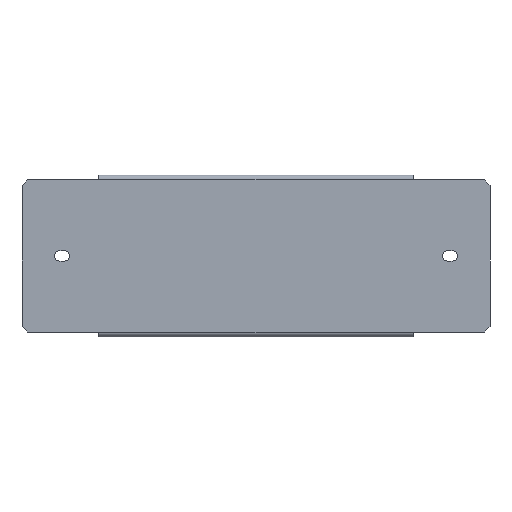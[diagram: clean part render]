
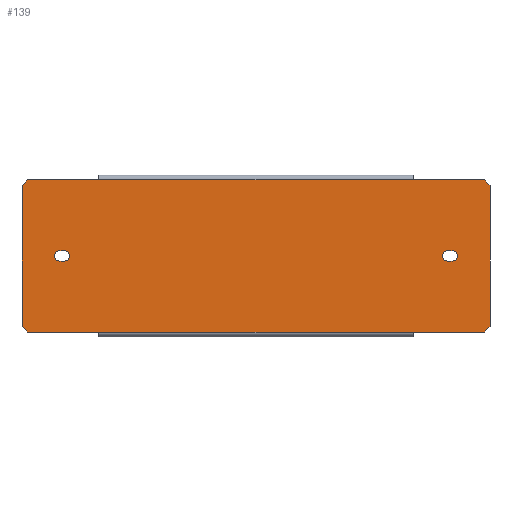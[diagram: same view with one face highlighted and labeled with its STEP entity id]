
A CAD part, top view. The second image highlights one B-rep face of the part: STEP entity #139.
In plain terms, the highlighted planar face has unit normal (0, 0, 1).
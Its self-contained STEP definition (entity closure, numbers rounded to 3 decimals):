
#139=ADVANCED_FACE('',(#503,#505,#507),#509,.T.);
#503=FACE_BOUND('',#504,.T.);
#504=EDGE_LOOP('',(#790,#791,#792,#793,#794,#795,#796,#797,#798,#799,#800,#801));
#505=FACE_BOUND('',#506,.T.);
#506=EDGE_LOOP('',(#802,#803,#804,#805));
#507=FACE_BOUND('',#508,.T.);
#508=EDGE_LOOP('',(#806,#807,#808,#809));
#509=PLANE('',#510);
#510=AXIS2_PLACEMENT_3D('',#511,#512,#513);
#511=CARTESIAN_POINT('',(-151.25,46.6,0.));
#512=DIRECTION('',(0.,-0.,1.));
#513=DIRECTION('',(1.,0.,-0.));
#790=ORIENTED_EDGE('',*,*,#972,.T.);
#791=ORIENTED_EDGE('',*,*,#990,.T.);
#792=ORIENTED_EDGE('',*,*,#958,.T.);
#793=ORIENTED_EDGE('',*,*,#991,.T.);
#794=ORIENTED_EDGE('',*,*,#968,.T.);
#795=ORIENTED_EDGE('',*,*,#992,.T.);
#796=ORIENTED_EDGE('',*,*,#964,.T.);
#797=ORIENTED_EDGE('',*,*,#993,.T.);
#798=ORIENTED_EDGE('',*,*,#954,.T.);
#799=ORIENTED_EDGE('',*,*,#994,.T.);
#800=ORIENTED_EDGE('',*,*,#976,.T.);
#801=ORIENTED_EDGE('',*,*,#995,.T.);
#802=ORIENTED_EDGE('',*,*,#996,.F.);
#803=ORIENTED_EDGE('',*,*,#997,.F.);
#804=ORIENTED_EDGE('',*,*,#998,.F.);
#805=ORIENTED_EDGE('',*,*,#947,.F.);
#806=ORIENTED_EDGE('',*,*,#999,.F.);
#807=ORIENTED_EDGE('',*,*,#1000,.F.);
#808=ORIENTED_EDGE('',*,*,#951,.F.);
#809=ORIENTED_EDGE('',*,*,#1001,.F.);
#947=EDGE_CURVE('',#1051,#1053,#1054,.T.);
#951=EDGE_CURVE('',#1059,#1061,#1062,.T.);
#954=EDGE_CURVE('',#1066,#1067,#1068,.T.);
#958=EDGE_CURVE('',#1074,#1075,#1076,.T.);
#964=EDGE_CURVE('',#1087,#1085,#1088,.T.);
#968=EDGE_CURVE('',#1095,#1093,#1096,.T.);
#972=EDGE_CURVE('',#1103,#1101,#1104,.T.);
#976=EDGE_CURVE('',#1111,#1109,#1112,.T.);
#990=EDGE_CURVE('',#1101,#1074,#1130,.T.);
#991=EDGE_CURVE('',#1075,#1095,#1131,.T.);
#992=EDGE_CURVE('',#1093,#1087,#1132,.T.);
#993=EDGE_CURVE('',#1085,#1066,#1133,.T.);
#994=EDGE_CURVE('',#1067,#1111,#1134,.T.);
#995=EDGE_CURVE('',#1109,#1103,#1135,.T.);
#996=EDGE_CURVE('',#1136,#1051,#1137,.T.);
#997=EDGE_CURVE('',#1138,#1136,#1139,.T.);
#998=EDGE_CURVE('',#1053,#1138,#1140,.T.);
#999=EDGE_CURVE('',#1141,#1142,#1143,.T.);
#1000=EDGE_CURVE('',#1061,#1141,#1144,.T.);
#1001=EDGE_CURVE('',#1142,#1059,#1145,.T.);
#1051=VERTEX_POINT('',#1219);
#1053=VERTEX_POINT('',#1223);
#1054=CIRCLE('',#1224,3.25);
#1059=VERTEX_POINT('',#1237);
#1061=VERTEX_POINT('',#1241);
#1062=CIRCLE('',#1242,3.25);
#1066=VERTEX_POINT('',#1254);
#1067=VERTEX_POINT('',#1255);
#1068=LINE('',#1256,#1257);
#1074=VERTEX_POINT('',#1270);
#1075=VERTEX_POINT('',#1271);
#1076=LINE('',#1272,#1273);
#1085=VERTEX_POINT('',#1291);
#1087=VERTEX_POINT('',#1295);
#1088=LINE('',#1296,#1297);
#1093=VERTEX_POINT('',#1307);
#1095=VERTEX_POINT('',#1311);
#1096=LINE('',#1312,#1313);
#1101=VERTEX_POINT('',#1323);
#1103=VERTEX_POINT('',#1327);
#1104=LINE('',#1328,#1329);
#1109=VERTEX_POINT('',#1339);
#1111=VERTEX_POINT('',#1343);
#1112=LINE('',#1344,#1345);
#1130=LINE('',#1392,#1393);
#1131=LINE('',#1395,#1396);
#1132=LINE('',#1398,#1399);
#1133=LINE('',#1401,#1402);
#1134=LINE('',#1404,#1405);
#1135=LINE('',#1407,#1408);
#1136=VERTEX_POINT('',#1410);
#1137=LINE('',#1411,#1412);
#1138=VERTEX_POINT('',#1414);
#1139=CIRCLE('',#1415,3.25);
#1140=LINE('',#1419,#1420);
#1141=VERTEX_POINT('',#1422);
#1142=VERTEX_POINT('',#1423);
#1143=CIRCLE('',#1424,3.25);
#1144=LINE('',#1428,#1429);
#1145=LINE('',#1431,#1432);
#1219=CARTESIAN_POINT('',(120.,-3.25,0.));
#1223=CARTESIAN_POINT('',(120.,3.25,0.));
#1224=AXIS2_PLACEMENT_3D('',#1225,#1226,#1227);
#1225=CARTESIAN_POINT('',(120.,0.,0.));
#1226=DIRECTION('',(0.,-0.,1.));
#1227=DIRECTION('',(0.,-1.,0.));
#1237=CARTESIAN_POINT('',(-117.5,-3.25,0.));
#1241=CARTESIAN_POINT('',(-117.5,3.25,0.));
#1242=AXIS2_PLACEMENT_3D('',#1243,#1244,#1245);
#1243=CARTESIAN_POINT('',(-117.5,0.,0.));
#1244=DIRECTION('',(0.,0.,1.));
#1245=DIRECTION('',(0.,-1.,0.));
#1254=CARTESIAN_POINT('',(-139.75,-46.6,0.));
#1255=CARTESIAN_POINT('',(-96.25,-46.6,0.));
#1256=CARTESIAN_POINT('',(-139.75,-46.6,0.));
#1257=VECTOR('',#1258,1.);
#1258=DIRECTION('',(1.,0.,0.));
#1270=CARTESIAN_POINT('',(139.75,46.6,0.));
#1271=CARTESIAN_POINT('',(96.25,46.6,0.));
#1272=CARTESIAN_POINT('',(139.75,46.6,0.));
#1273=VECTOR('',#1274,1.);
#1274=DIRECTION('',(-1.,0.,0.));
#1291=CARTESIAN_POINT('',(-143.25,-43.1,0.));
#1295=CARTESIAN_POINT('',(-143.25,43.1,0.));
#1296=CARTESIAN_POINT('',(-143.25,43.1,0.));
#1297=VECTOR('',#1298,1.);
#1298=DIRECTION('',(0.,-1.,0.));
#1307=CARTESIAN_POINT('',(-139.75,46.6,0.));
#1311=CARTESIAN_POINT('',(-96.25,46.6,0.));
#1312=CARTESIAN_POINT('',(-96.25,46.6,0.));
#1313=VECTOR('',#1314,1.);
#1314=DIRECTION('',(-1.,0.,0.));
#1323=CARTESIAN_POINT('',(143.25,43.1,0.));
#1327=CARTESIAN_POINT('',(143.25,-43.1,0.));
#1328=CARTESIAN_POINT('',(143.25,-43.1,0.));
#1329=VECTOR('',#1330,1.);
#1330=DIRECTION('',(0.,1.,0.));
#1339=CARTESIAN_POINT('',(139.75,-46.6,0.));
#1343=CARTESIAN_POINT('',(96.25,-46.6,0.));
#1344=CARTESIAN_POINT('',(96.25,-46.6,0.));
#1345=VECTOR('',#1346,1.);
#1346=DIRECTION('',(1.,0.,0.));
#1392=CARTESIAN_POINT('',(143.25,43.1,0.));
#1393=VECTOR('',#1394,1.);
#1394=DIRECTION('',(-0.707,0.707,0.));
#1395=CARTESIAN_POINT('',(96.25,46.6,0.));
#1396=VECTOR('',#1397,1.);
#1397=DIRECTION('',(-1.,0.,0.));
#1398=CARTESIAN_POINT('',(-139.75,46.6,0.));
#1399=VECTOR('',#1400,1.);
#1400=DIRECTION('',(-0.707,-0.707,0.));
#1401=CARTESIAN_POINT('',(-143.25,-43.1,0.));
#1402=VECTOR('',#1403,1.);
#1403=DIRECTION('',(0.707,-0.707,0.));
#1404=CARTESIAN_POINT('',(-96.25,-46.6,0.));
#1405=VECTOR('',#1406,1.);
#1406=DIRECTION('',(1.,0.,0.));
#1407=CARTESIAN_POINT('',(139.75,-46.6,0.));
#1408=VECTOR('',#1409,1.);
#1409=DIRECTION('',(0.707,0.707,0.));
#1410=CARTESIAN_POINT('',(117.5,-3.25,0.));
#1411=CARTESIAN_POINT('',(117.5,-3.25,0.));
#1412=VECTOR('',#1413,1.);
#1413=DIRECTION('',(1.,0.,0.));
#1414=CARTESIAN_POINT('',(117.5,3.25,0.));
#1415=AXIS2_PLACEMENT_3D('',#1416,#1417,#1418);
#1416=CARTESIAN_POINT('',(117.5,0.,0.));
#1417=DIRECTION('',(0.,-0.,1.));
#1418=DIRECTION('',(0.,1.,0.));
#1419=CARTESIAN_POINT('',(120.,3.25,0.));
#1420=VECTOR('',#1421,1.);
#1421=DIRECTION('',(-1.,0.,0.));
#1422=CARTESIAN_POINT('',(-120.,3.25,0.));
#1423=CARTESIAN_POINT('',(-120.,-3.25,0.));
#1424=AXIS2_PLACEMENT_3D('',#1425,#1426,#1427);
#1425=CARTESIAN_POINT('',(-120.,0.,0.));
#1426=DIRECTION('',(0.,-0.,1.));
#1427=DIRECTION('',(0.,1.,0.));
#1428=CARTESIAN_POINT('',(-117.5,3.25,0.));
#1429=VECTOR('',#1430,1.);
#1430=DIRECTION('',(-1.,0.,0.));
#1431=CARTESIAN_POINT('',(-120.,-3.25,0.));
#1432=VECTOR('',#1433,1.);
#1433=DIRECTION('',(1.,0.,0.));
